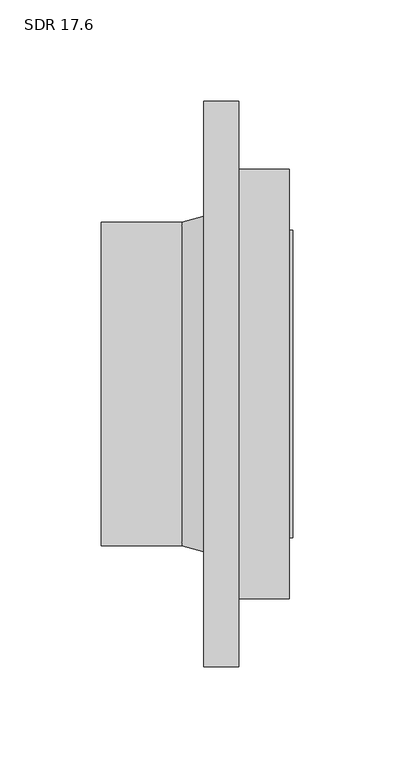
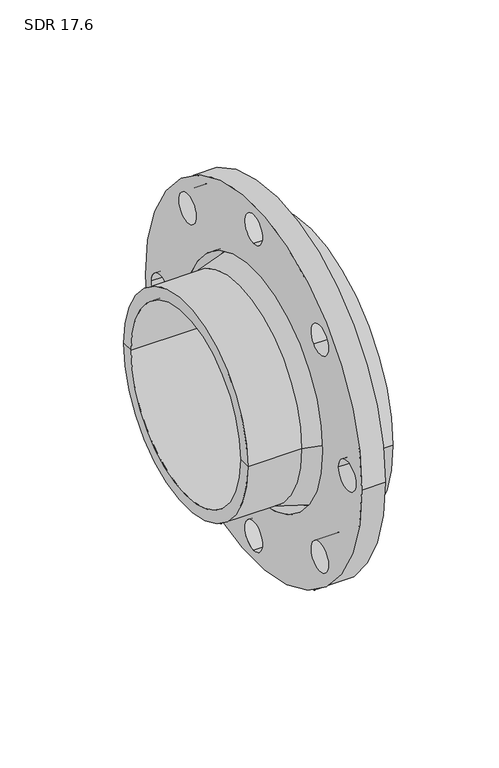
"""IFC4 building model written with IfcOpenShell, lengths in millimetres: valve geometry, Aquatherm - Flange Adapter Butt-Weld : SDR 17.6."""

import ifcopenshell
import ifcopenshell.guid

model = None  # the IFC model being written
_history = None  # IfcOwnerHistory: only IFC2X3 demands one
_inside = {}  # id of a spatial element -> (the spatial element, [elements in it])
_under = {}  # id of a project, library or spatial element -> (it, [spatial elements below it])
_declared = {}  # id of a project -> (the project, [libraries it declares])
_typed = {}  # id of a type object -> (the type object, [elements of that type])
_made_of = {}  # id of a material, layer set ... -> (it, [elements and type objects made of it])


def new_model(schema):
    """Start an empty IFC model of exactly this schema.

    Asked for "IFC4X3", IfcOpenShell would pick the latest addendum, in which some entities
    have other attributes; the version numbers below select the first issue.
    IFC2X3 requires an IfcOwnerHistory on every rooted entity: one is made here for all.
    """
    global model, _history
    if schema == "IFC4X3":
        model = ifcopenshell.file(schema_version=(4, 3, 0, 0))
    else:
        model = ifcopenshell.file(schema=schema)
    _inside.clear()
    _under.clear()
    _declared.clear()
    _typed.clear()
    _made_of.clear()
    _history = None
    if model.schema == "IFC2X3":
        org = make("IfcOrganization", Name="unknown")
        user = make(
            "IfcPersonAndOrganization",
            ThePerson=make("IfcPerson", FamilyName="unknown"),
            TheOrganization=org,
        )
        app = make(
            "IfcApplication",
            ApplicationDeveloper=org,
            Version="unknown",
            ApplicationFullName="unknown",
            ApplicationIdentifier="unknown",
        )
        _history = make(
            "IfcOwnerHistory",
            OwningUser=user,
            OwningApplication=app,
            ChangeAction="ADDED",
            CreationDate=0,
        )
    return model


def make(cls, **values):
    """One entity of the class cls with the attributes given. An attribute that is None is left unset."""
    return model.create_entity(
        cls, **{name: value for name, value in values.items() if value is not None}
    )


def rooted(cls, **values):
    """An entity with a GlobalId (a new one), such as an element, a storey or a relation."""
    return make(cls, GlobalId=ifcopenshell.guid.new(), OwnerHistory=_history, **values)


def si_unit(unit_type, name, prefix=None):
    """IfcSIUnit, for example si_unit("LENGTHUNIT", "METRE", prefix="MILLI")."""
    return make("IfcSIUnit", UnitType=unit_type, Prefix=prefix, Name=name)


def assignment(units):
    """IfcUnitAssignment: the units of a project."""
    return None if units is None else make("IfcUnitAssignment", Units=units)


def point(xyz):
    """IfcCartesianPoint."""
    return None if xyz is None else make("IfcCartesianPoint", Coordinates=xyz)


def direction(xyz):
    """IfcDirection."""
    return None if xyz is None else make("IfcDirection", DirectionRatios=xyz)


def frame(location, z_axis=None, x_axis=None):
    """IfcAxis2Placement3D, a coordinate frame: its origin and axes. An axis left out is left unset."""
    return make(
        "IfcAxis2Placement3D",
        Location=point(location),
        Axis=direction(z_axis),
        RefDirection=direction(x_axis),
    )


def frame_2d(location, x_axis=None):
    """IfcAxis2Placement2D, a coordinate frame in the plane: its origin and x axis."""
    return make(
        "IfcAxis2Placement2D", Location=point(location), RefDirection=direction(x_axis)
    )


def origin():
    """The frame at (0, 0, 0) with its axes left unset."""
    return frame((0.0, 0.0, 0.0))


def origin_2d():
    """The frame at (0, 0) in the plane with its x axis left unset."""
    return frame_2d((0.0, 0.0))


def place(relative_to, where):
    """IfcLocalPlacement: puts the frame where relative to a parent placement (None: the world)."""
    return make(
        "IfcLocalPlacement", PlacementRelTo=relative_to, RelativePlacement=where
    )


def context(
    kind, dimensions, precision=None, world=None, true_north=None, identifier=None
):
    """IfcGeometricRepresentationContext, for example the 3D "Model" context."""
    return make(
        "IfcGeometricRepresentationContext",
        ContextIdentifier=identifier,
        ContextType=kind,
        CoordinateSpaceDimension=dimensions,
        Precision=precision,
        WorldCoordinateSystem=world,
        TrueNorth=true_north,
    )


def project(units=None, contexts=None):
    """IfcProject with its units and contexts."""
    return rooted(
        "IfcProject",
        Name="project",
        RepresentationContexts=contexts,
        UnitsInContext=assignment(units),
    )


def spatial(cls, under=None, at=None, **own):
    """A site, building, storey or space (cls), placed at a placement, below another one or the project."""
    s = rooted(cls, ObjectPlacement=at, **own)
    if under is not None:
        _under.setdefault(under.id(), (under, []))[1].append(s)
    return s


def polyline(points):
    """IfcPolyline through the points."""
    return make("IfcPolyline", Points=[point(p) for p in points])


def circle_curve(where, radius):
    """IfcCircle in the frame where."""
    return make("IfcCircle", Position=where, Radius=radius)


def trimmed(basis, trim1, trim2, sense, master):
    """IfcTrimmedCurve: the piece of a basis curve between two trims."""
    return make(
        "IfcTrimmedCurve",
        BasisCurve=basis,
        Trim1=trim1,
        Trim2=trim2,
        SenseAgreement=sense,
        MasterRepresentation=master,
    )


def segment(curve, same_sense, transition):
    """IfcCompositeCurveSegment."""
    return make(
        "IfcCompositeCurveSegment",
        Transition=transition,
        SameSense=same_sense,
        ParentCurve=curve,
    )


def composite_curve(segments, self_intersect=None):
    """IfcCompositeCurve: segments joined end to end."""
    return make("IfcCompositeCurve", Segments=segments, SelfIntersect=self_intersect)


def outline(outer, holes=None, kind="AREA"):
    """IfcArbitraryClosedProfileDef: a profile drawn as a closed curve; with holes, ...WithVoids."""
    if holes is None:
        return make("IfcArbitraryClosedProfileDef", ProfileType=kind, OuterCurve=outer)
    return make(
        "IfcArbitraryProfileDefWithVoids",
        ProfileType=kind,
        OuterCurve=outer,
        InnerCurves=holes,
    )


def extrude(swept, where, along, depth):
    """IfcExtrudedAreaSolid: the profile swept, set in the frame where, extruded along a direction by depth."""
    return make(
        "IfcExtrudedAreaSolid",
        SweptArea=swept,
        Position=where,
        ExtrudedDirection=direction(along),
        Depth=depth,
    )


def shape(context_of_items, identifier, shape_type, items):
    """IfcShapeRepresentation: the items that make up one representation, for example the "Body"."""
    return make(
        "IfcShapeRepresentation",
        ContextOfItems=context_of_items,
        RepresentationIdentifier=identifier,
        RepresentationType=shape_type,
        Items=items,
    )


def source(mapping_origin, context_of_items, identifier, shape_type, items):
    """IfcRepresentationMap: a shape defined once, which mapped items show again and again."""
    return make(
        "IfcRepresentationMap",
        MappingOrigin=mapping_origin,
        MappedRepresentation=shape(context_of_items, identifier, shape_type, items),
    )


def transform(
    local_origin,
    x_axis=None,
    y_axis=None,
    z_axis=None,
    scale=None,
    scale2=None,
    scale3=None,
    uniform=True,
):
    """IfcCartesianTransformationOperator3D, or its non-uniform kind. x_axis, y_axis, z_axis: its Axis1, 2, 3."""
    if uniform:
        return make(
            "IfcCartesianTransformationOperator3D",
            Axis1=direction(x_axis),
            Axis2=direction(y_axis),
            LocalOrigin=point(local_origin),
            Scale=scale,
            Axis3=direction(z_axis),
        )
    return make(
        "IfcCartesianTransformationOperator3DnonUniform",
        Axis1=direction(x_axis),
        Axis2=direction(y_axis),
        LocalOrigin=point(local_origin),
        Scale=scale,
        Axis3=direction(z_axis),
        Scale2=scale2,
        Scale3=scale3,
    )


def mapped(mapping_source, mapping_target):
    """IfcMappedItem: shows the shape of a source again, moved by a transform."""
    return make(
        "IfcMappedItem", MappingSource=mapping_source, MappingTarget=mapping_target
    )


def made_of(thing, what):
    """Note that an element or type object is made of a material, layer set ...; save() writes the relation."""
    if what is not None:
        _made_of.setdefault(what.id(), (what, []))[1].append(thing)
    return thing


def element(
    cls,
    number,
    at=None,
    inside=None,
    cuts=None,
    type_object=None,
    material=None,
    context=None,
    identifier="Body",
    shape_type=None,
    held_by="IfcProductDefinitionShape",
    body=None,
    shapes=None,
    **own,
):
    """One element of the class cls, such as IfcWall. Its Tag is "e" and its number.

    at: its placement. inside: the storey or other place that contains it. cuts: it is an
    opening in that element (IfcRelVoidsElement). A single representation is given by context,
    identifier, shape_type and body (its items); several are given by shapes. held_by: the class
    of the entity that holds the representations. save() writes the other relations.
    """
    e = rooted(cls, Tag="e%d" % number, ObjectPlacement=at, **own)
    if body is not None:
        shapes = [shape(context, identifier, shape_type, body)]
    if shapes is not None:
        e.Representation = make(held_by, Representations=shapes)
    if inside is not None:
        _inside.setdefault(inside.id(), (inside, []))[1].append(e)
    if cuts is not None:
        rooted(
            "IfcRelVoidsElement", RelatingBuildingElement=cuts, RelatedOpeningElement=e
        )
    if type_object is not None:
        _typed.setdefault(type_object.id(), (type_object, []))[1].append(e)
    return made_of(e, material)


def aggregate(whole, parts):
    """IfcRelAggregates: a whole, such as a stair, and the parts it consists of."""
    return rooted("IfcRelAggregates", RelatingObject=whole, RelatedObjects=parts)


def save(model, path):
    """Write the relations noted so far, then the file.

    IfcRelAggregates (storeys below a building ...), IfcRelContainedInSpatialStructure (elements
    in a storey), IfcRelDefinesByType, IfcRelAssociatesMaterial and IfcRelDeclares: one each for
    every whole, place, type object, material and project.
    """
    for whole, parts in _under.values():
        aggregate(whole, parts)
    for where, things in _inside.values():
        rooted(
            "IfcRelContainedInSpatialStructure",
            RelatedElements=things,
            RelatingStructure=where,
        )
    for kind, things in _typed.values():
        rooted("IfcRelDefinesByType", RelatedObjects=things, RelatingType=kind)
    for what, things in _made_of.values():
        rooted("IfcRelAssociatesMaterial", RelatedObjects=things, RelatingMaterial=what)
    for by, libraries in _declared.values():
        rooted("IfcRelDeclares", RelatingContext=by, RelatedDefinitions=libraries)
    model.write(path)


def plane_surface(at):
    """IfcPlane: the flat surface through the origin of the frame at, square to its z axis."""
    return make("IfcPlane", Position=at)


def cylinder_surface(at, radius):
    """IfcCylindricalSurface: all points at the distance radius from the z axis of the frame at."""
    return make("IfcCylindricalSurface", Position=at, Radius=radius)


def revolved_surface(curve, axis_point, axis_direction):
    """IfcSurfaceOfRevolution: the curve turned about the line through axis_point along axis_direction."""
    return make(
        "IfcSurfaceOfRevolution",
        SweptCurve=make("IfcArbitraryOpenProfileDef", ProfileType="CURVE", Curve=curve),
        AxisPosition=make("IfcAxis1Placement", Location=point(axis_point), Axis=direction(axis_direction)),
    )


def advanced_brep(points, edges, surfaces, faces):
    """IfcAdvancedBrep: a solid bounded by faces that lie on surfaces and meet in shared edges.

    An edge is (start, end): straight between two places in points (the first is 0);
    or (start, end, curve); or (start, end, curve, False) where it runs against its curve.
    A face is (place in surfaces, loops), or (place, loops, False) where it looks against
    its surface's normal. A loop lists edges by number (the first is 1), with a minus sign
    where the edge is run from its end to its start. The first loop is the outer one.
    """
    corners = [point(p) for p in points]
    vertices = [make("IfcVertexPoint", VertexGeometry=c) for c in corners]
    made = []
    for start, end, *more in edges:
        made.append(
            make(
                "IfcEdgeCurve",
                EdgeStart=vertices[start],
                EdgeEnd=vertices[end],
                EdgeGeometry=more[0] if more else make("IfcPolyline", Points=[corners[start], corners[end]]),
                SameSense=more[1] if len(more) > 1 else True,
            )
        )
    hull = []
    for where, loops, *sense in faces:
        bounds = []
        for j, loop in enumerate(loops):
            ring = [make("IfcOrientedEdge", EdgeElement=made[abs(k) - 1], Orientation=k > 0) for k in loop]
            bounds.append(
                make(
                    "IfcFaceOuterBound" if j == 0 else "IfcFaceBound",
                    Bound=make("IfcEdgeLoop", EdgeList=ring),
                    Orientation=True,
                )
            )
        hull.append(make("IfcAdvancedFace", Bounds=bounds, FaceSurface=surfaces[where], SameSense=sense[0] if sense else True))
    return make("IfcAdvancedBrep", Outer=make("IfcClosedShell", CfsFaces=hull))


def sdr_17_6_375cabe6(model_context):
    return source(origin(), model_context, "Body", "SolidModel", [
        extrude(outline(composite_curve([segment(trimmed(circle_curve(origin_2d(), 139.7), [point((-139.7, 0.0))], [point((139.7, 0.0))], False, "CARTESIAN"), True, "CONTINUOUS"), segment(trimmed(circle_curve(origin_2d(), 139.7), [point((139.7, 0.0))], [point((-139.7, 0.0))], False, "CARTESIAN"), True, "CONTINUOUS")], self_intersect=False), holes=[composite_curve([segment(trimmed(circle_curve(origin_2d(), 88.9), [point((-88.9, 0.0))], [point((88.9, 0.0))], True, "CARTESIAN"), True, "CONTINUOUS"), segment(trimmed(circle_curve(origin_2d(), 88.9), [point((88.9, 0.0))], [point((-88.9, 0.0))], True, "CARTESIAN"), True, "CONTINUOUS")], self_intersect=False), composite_curve([segment(trimmed(circle_curve(frame_2d((120.65, 0.0)), 11.176), [point((109.474, 0.0))], [point((131.826, 0.0))], True, "CARTESIAN"), True, "CONTINUOUS"), segment(trimmed(circle_curve(frame_2d((120.65, 0.0)), 11.176), [point((131.826, 0.0))], [point((109.474, 0.0))], True, "CARTESIAN"), True, "CONTINUOUS")], self_intersect=False), composite_curve([segment(trimmed(circle_curve(frame_2d((85.3124332, -85.3124332)), 11.176), [point((77.4098078, -77.4098078))], [point((93.2150585, -93.2150585))], True, "CARTESIAN"), True, "CONTINUOUS"), segment(trimmed(circle_curve(frame_2d((85.3124332, -85.3124332)), 11.176), [point((93.2150585, -93.2150585))], [point((77.4098078, -77.4098078))], True, "CARTESIAN"), True, "CONTINUOUS")], self_intersect=False), composite_curve([segment(trimmed(circle_curve(frame_2d((85.3124332, 85.3124332)), 11.176), [point((77.4098078, 77.4098078))], [point((93.2150585, 93.2150585))], True, "CARTESIAN"), True, "CONTINUOUS"), segment(trimmed(circle_curve(frame_2d((85.3124332, 85.3124332)), 11.176), [point((93.2150585, 93.2150585))], [point((77.4098078, 77.4098078))], True, "CARTESIAN"), True, "CONTINUOUS")], self_intersect=False), composite_curve([segment(trimmed(circle_curve(frame_2d((0.0, 120.65)), 11.176), [point((0.0, 109.474))], [point((0.0, 131.826))], True, "CARTESIAN"), True, "CONTINUOUS"), segment(trimmed(circle_curve(frame_2d((0.0, 120.65)), 11.176), [point((0.0, 131.826))], [point((0.0, 109.474))], True, "CARTESIAN"), True, "CONTINUOUS")], self_intersect=False), composite_curve([segment(trimmed(circle_curve(frame_2d((-85.3124332, 85.3124332)), 11.176), [point((-77.4098078, 77.4098078))], [point((-93.2150585, 93.2150585))], True, "CARTESIAN"), True, "CONTINUOUS"), segment(trimmed(circle_curve(frame_2d((-85.3124332, 85.3124332)), 11.176), [point((-93.2150585, 93.2150585))], [point((-77.4098078, 77.4098078))], True, "CARTESIAN"), True, "CONTINUOUS")], self_intersect=False), composite_curve([segment(trimmed(circle_curve(frame_2d((-120.65, 0.0)), 11.176), [point((-109.474, 0.0))], [point((-131.826, 0.0))], True, "CARTESIAN"), True, "CONTINUOUS"), segment(trimmed(circle_curve(frame_2d((-120.65, 0.0)), 11.176), [point((-131.826, 0.0))], [point((-109.474, 0.0))], True, "CARTESIAN"), True, "CONTINUOUS")], self_intersect=False), composite_curve([segment(trimmed(circle_curve(frame_2d((-85.3124332, -85.3124332)), 11.176), [point((-77.4098078, -77.4098078))], [point((-93.2150585, -93.2150585))], True, "CARTESIAN"), True, "CONTINUOUS"), segment(trimmed(circle_curve(frame_2d((-85.3124332, -85.3124332)), 11.176), [point((-93.2150585, -93.2150585))], [point((-77.4098078, -77.4098078))], True, "CARTESIAN"), True, "CONTINUOUS")], self_intersect=False), composite_curve([segment(trimmed(circle_curve(frame_2d((0.0, -120.65)), 11.176), [point((0.0, -109.474))], [point((0.0, -131.826))], True, "CARTESIAN"), True, "CONTINUOUS"), segment(trimmed(circle_curve(frame_2d((0.0, -120.65)), 11.176), [point((0.0, -131.826))], [point((0.0, -109.474))], True, "CARTESIAN"), True, "CONTINUOUS")], self_intersect=False)]), frame((-17.526, 0.0, 0.0), z_axis=(1.0, 0.0, 0.0), x_axis=(0.0, 1.0, 0.0)), (0.0, 0.0, 1.0), 17.526),
        advanced_brep(
        [(24.892, 106.045, 0.0), (24.892, -106.045, 0.0), (0.0, -106.045, 0.0), (0.0, 106.045, 0.0), (26.4795, 70.866, 0.0), (26.4795, -70.866, 0.0), (26.4795, -75.946, 0.0), (26.4795, 75.946, 0.0), (-68.072, 70.866, 0.0), (-68.072, -70.866, 0.0), (-68.072, 80.01, 0.0), (-68.072, -80.01, 0.0), (-28.194, 80.01, 0.0), (-28.194, -80.01, 0.0), (0.0, -87.503, 0.0), (0.0, 87.503, 0.0), (24.892, 75.946, 0.0), (24.892, -75.946, 0.0)],
        [
            (0, 1, circle_curve(frame((24.892, 0.0, 0.0), z_axis=(-1.0, 0.0, 0.0), x_axis=(0.0, -1.0, 0.0)), 106.045)),
            (1, 2),
            (2, 3, circle_curve(frame((0.0, 0.0, 0.0), z_axis=(1.0, 0.0, 0.0), x_axis=(0.0, -1.0, 0.0)), 106.045)),
            (3, 0),
            (1, 0, circle_curve(frame((24.892, 0.0, 0.0), z_axis=(-1.0, 0.0, 0.0), x_axis=(0.0, -1.0, 0.0)), 106.045)),
            (3, 2, circle_curve(frame((0.0, 0.0, 0.0), z_axis=(1.0, 0.0, 0.0), x_axis=(0.0, -1.0, 0.0)), 106.045)),
            (4, 5, circle_curve(frame((26.4795, 0.0, 0.0), z_axis=(-1.0, 0.0, 0.0), x_axis=(0.0, -1.0, 0.0)), 70.866)),
            (5, 6),
            (6, 7, circle_curve(frame((26.4795, 0.0, 0.0), z_axis=(1.0, 0.0, 0.0), x_axis=(0.0, -1.0, 0.0)), 75.946)),
            (7, 4),
            (5, 4, circle_curve(frame((26.4795, 0.0, 0.0), z_axis=(-1.0, 0.0, 0.0), x_axis=(0.0, -1.0, 0.0)), 70.866)),
            (7, 6, circle_curve(frame((26.4795, 0.0, 0.0), z_axis=(1.0, 0.0, 0.0), x_axis=(0.0, -1.0, 0.0)), 75.946)),
            (8, 9, circle_curve(frame((-68.072, 0.0, 0.0), z_axis=(-1.0, 0.0, 0.0), x_axis=(0.0, -1.0, 0.0)), 70.866)),
            (9, 5),
            (4, 8),
            (9, 8, circle_curve(frame((-68.072, 0.0, 0.0), z_axis=(-1.0, 0.0, 0.0), x_axis=(0.0, -1.0, 0.0)), 70.866)),
            (10, 11, circle_curve(frame((-68.072, 0.0, 0.0), z_axis=(-1.0, 0.0, 0.0), x_axis=(0.0, -1.0, 0.0)), 80.01)),
            (11, 9),
            (8, 10),
            (11, 10, circle_curve(frame((-68.072, 0.0, 0.0), z_axis=(-1.0, 0.0, 0.0), x_axis=(0.0, -1.0, 0.0)), 80.01)),
            (12, 13, circle_curve(frame((-28.194, 0.0, 0.0), z_axis=(-1.0, 0.0, 0.0), x_axis=(0.0, -1.0, 0.0)), 80.01)),
            (13, 11),
            (10, 12),
            (13, 12, circle_curve(frame((-28.194, 0.0, 0.0), z_axis=(-1.0, 0.0, 0.0), x_axis=(0.0, -1.0, 0.0)), 80.01)),
            (2, 14),
            (14, 15, circle_curve(frame((0.0, 0.0, 0.0), z_axis=(1.0, 0.0, 0.0), x_axis=(0.0, -1.0, 0.0)), 87.503)),
            (15, 3),
            (15, 14, circle_curve(frame((0.0, 0.0, 0.0), z_axis=(1.0, 0.0, 0.0), x_axis=(0.0, -1.0, 0.0)), 87.503)),
            (16, 17, circle_curve(frame((24.892, 0.0, 0.0), z_axis=(-1.0, 0.0, 0.0), x_axis=(0.0, -1.0, 0.0)), 75.946)),
            (17, 1),
            (0, 16),
            (17, 16, circle_curve(frame((24.892, 0.0, 0.0), z_axis=(-1.0, 0.0, 0.0), x_axis=(0.0, -1.0, 0.0)), 75.946)),
            (6, 17),
            (16, 7),
            (14, 13),
            (12, 15),
        ],
        [
            cylinder_surface(frame((1465.5309321, 0.0, 0.0), z_axis=(1.0, 0.0, 0.0), x_axis=(0.0, -1.0, 0.0)), 106.045),
            plane_surface(frame((26.4795, 0.0, 0.0), z_axis=(1.0, 0.0, 0.0), x_axis=(0.0, -1.0, 0.0))),
            revolved_surface(polyline([(26.479499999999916, -70.866, 0.0), (-68.07200000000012, -70.866, 0.0)]), (1465.5309321, 0.0, 0.0), (1.0, 0.0, 0.0)),
            plane_surface(frame((-68.072, 0.0, 0.0), z_axis=(-1.0, 0.0, 0.0), x_axis=(0.0, -1.0, 0.0))),
            cylinder_surface(frame((1465.5309321, 0.0, 0.0), z_axis=(1.0, 0.0, 0.0), x_axis=(0.0, -1.0, 0.0)), 80.01),
            plane_surface(frame((0.0, 0.0, 0.0), z_axis=(-1.0, 0.0, 0.0), x_axis=(0.0, -1.0, 0.0))),
            plane_surface(frame((24.892, 0.0, 0.0), z_axis=(1.0, 0.0, 0.0), x_axis=(0.0, -1.0, 0.0))),
            cylinder_surface(frame((1465.5309321, 0.0, 0.0), z_axis=(1.0, 0.0, 0.0), x_axis=(0.0, -1.0, 0.0)), 75.946),
            revolved_surface(polyline([(-28.194, -80.01, 0.0), (0.0, -87.503, 0.0)]), (1465.5309321, 0.0, 0.0), (1.0, 0.0, 0.0)),
        ],
        [
            (0, [[1, 2, 3, 4]]),
            (0, [[5, -4, 6, -2]]),
            (1, [[7, 8, 9, 10]]),
            (1, [[11, -10, 12, -8]]),
            (2, [[13, 14, -7, 15]]),
            (2, [[16, -15, -11, -14]]),
            (3, [[17, 18, -13, 19]]),
            (3, [[20, -19, -16, -18]]),
            (4, [[21, 22, -17, 23]]),
            (4, [[24, -23, -20, -22]]),
            (5, [[-3, 25, 26, 27]]),
            (5, [[-6, -27, 28, -25]]),
            (6, [[29, 30, -1, 31]]),
            (6, [[32, -31, -5, -30]]),
            (7, [[-9, 33, -29, 34]]),
            (7, [[-12, -34, -32, -33]]),
            (8, [[-26, 35, -21, 36]]),
            (8, [[-28, -36, -24, -35]]),
        ],
    ),
    ])


if __name__ == "__main__":
    model = new_model("IFC4")
    model_context = context("Model", 3, world=origin())
    ifc_project = project(units=[si_unit("LENGTHUNIT", "METRE", prefix="MILLI")], contexts=[model_context])
    site = spatial("IfcSite", under=ifc_project)
    building = spatial("IfcBuilding", under=site)
    placement = place(None, origin())
    sdr_17_6_shape = sdr_17_6_375cabe6(model_context)
    element("IfcValve", 1, ObjectType="Aquatherm - Flange Adapter Butt-Weld : SDR 17.6", at=placement, inside=building, context=model_context, shape_type="MappedRepresentation", body=[
        mapped(sdr_17_6_shape, transform((0.0, 0.0, 0.0), x_axis=(1.0, 0.0, 0.0), y_axis=(0.0, 1.0, 0.0), z_axis=(0.0, 0.0, 1.0))),
    ])
    save(model, "model.ifc")
